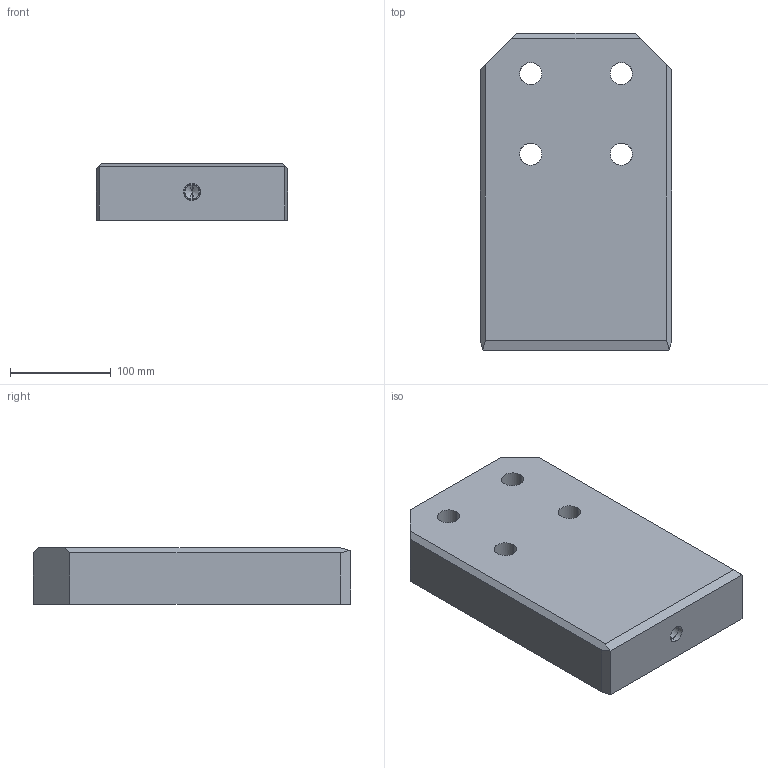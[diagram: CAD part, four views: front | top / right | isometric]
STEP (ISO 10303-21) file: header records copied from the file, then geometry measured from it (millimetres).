
FILE_DESCRIPTION(('CATIA V5 STEP Exchange'),'2;1');
FILE_NAME('C:\Users\borellobunino\Desktop\3D X SITO CF\A927\GSB_OILLESS_G2290519031556\STEP-2.03\A927-190X315X56.stp','2019-07-15T19:51:52+00:00',('none'),('none'),'CATIA Version 5 Release 20 GA (IN-10)','CATIA V5 STEP AP203','none');
FILE_SCHEMA(('CONFIG_CONTROL_DESIGN'));
Length unit declared in the file: millimetre
Products named in the file (1): A927-190X315X56
Bounding box: 190 x 315 x 56 mm (x, y, z)
Volume: 3123412.9 mm3; surface area: 186253.9 mm2
Topology: 1 solids, 1 shells, 52 faces, 134 edges, 89 vertices
Faces by surface type: cylinder 22, plane 20, cone 10
Entity records: 2048 total; most frequent: CARTESIAN_POINT 784, ORIENTED_EDGE 264, DIRECTION 206, EDGE_CURVE 132, VERTEX_POINT 89, AXIS2_PLACEMENT_3D 87, VECTOR 68, LINE 68
